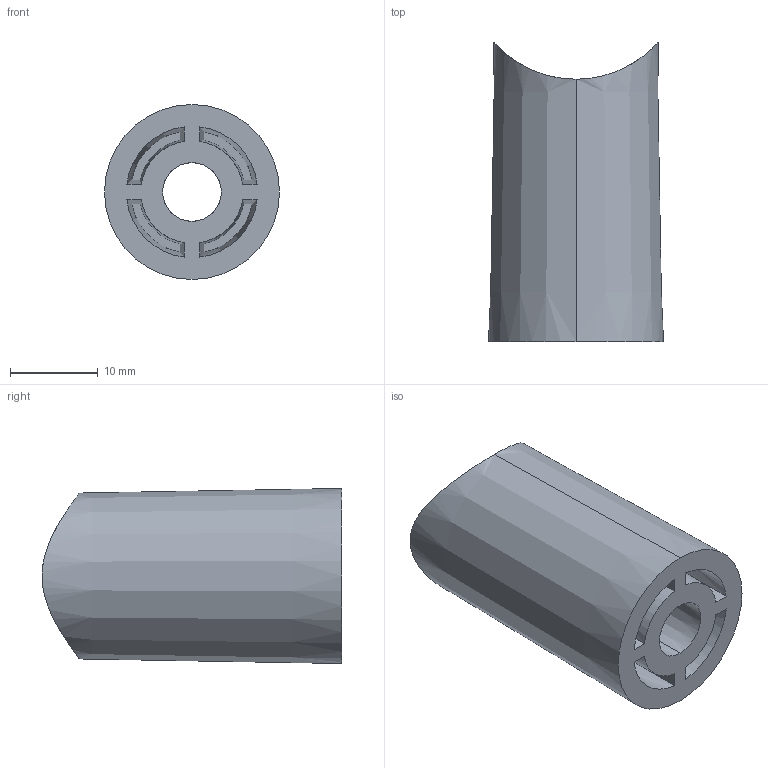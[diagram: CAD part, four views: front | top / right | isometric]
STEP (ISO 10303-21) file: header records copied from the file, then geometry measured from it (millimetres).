
FILE_DESCRIPTION (( 'STEP AP214' ), '1' );
FILE_NAME ('084.506.009A.STEP', '2021-03-24T08:15:08', ( '' ), ( '' ), 'SwSTEP 2.0', 'SolidWorks 2018', '' );
FILE_SCHEMA (( 'AUTOMOTIVE_DESIGN' ));
Length unit declared in the file: millimetre
Products named in the file (1): 084.506.009A
Bounding box: 20 x 34.25 x 20 mm (x, y, z)
Volume: 6819.6 mm3; surface area: 5179.8 mm2
Topology: 1 solids, 1 shells, 29 faces, 66 edges, 44 vertices
Faces by surface type: cone 14, plane 14, cylinder 1
Entity records: 1072 total; most frequent: CARTESIAN_POINT 398, ORIENTED_EDGE 132, DIRECTION 130, EDGE_CURVE 66, AXIS2_PLACEMENT_3D 54, VERTEX_POINT 44, EDGE_LOOP 36, ADVANCED_FACE 29
